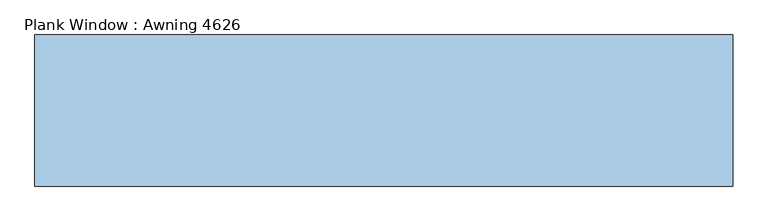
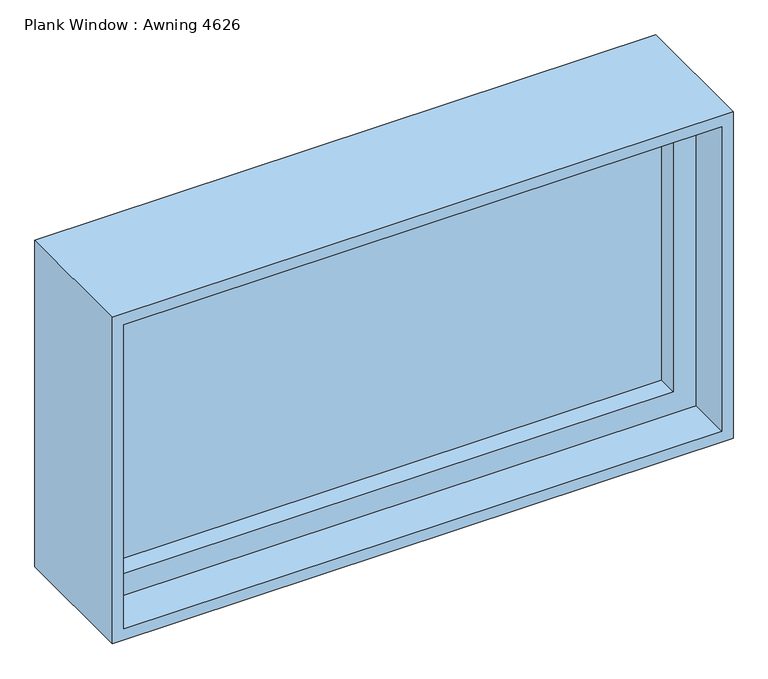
"""IFC4 building model written with IfcOpenShell, lengths in millimetres: window geometry, Plank Window : Awning 4626."""

from ifc_helpers import new_model, si_unit, frame, origin, place, context, project, spatial, polyline, outline, extrude, source, transform, mapped, element, save


def plank_window_awning_4626_d54cf950(model_context):
    return source(origin(), model_context, "Body", "SweptSolid", [
        extrude(outline(polyline([(609.6, -6.35), (-609.6, -6.35), (-609.6, 6.35), (609.6, 6.35), (609.6, -6.35)])), frame((0.0, 0.0, 990.6), z_axis=(0.0, 0.0, 1.0), x_axis=(1.0, 0.0, 0.0)), (0.0, 0.0, 1.0), 609.6),
        extrude(outline(polyline([(1651.0, -660.4), (939.8, -660.4), (939.8, 660.4), (1651.0, 660.4), (1651.0, -660.4)]), holes=[polyline([(1600.2, -609.6), (1600.2, 609.6), (990.6, 609.6), (990.6, -609.6), (1600.2, -609.6)])]), frame((0.0, -50.8, 0.0), z_axis=(0.0, 1.0, 0.0), x_axis=(0.0, 0.0, 1.0)), (0.0, 0.0, 1.0), 101.6),
        extrude(outline(polyline([(1676.4, -685.8), (914.4, -685.8), (914.4, 685.8), (1676.4, 685.8), (1676.4, -685.8)]), holes=[polyline([(1651.0, -660.4), (1651.0, 660.4), (939.8, 660.4), (939.8, -660.4), (1651.0, -660.4)])]), frame((0.0, -148.43125, 0.0), z_axis=(0.0, 1.0, 0.0), x_axis=(0.0, 0.0, 1.0)), (0.0, 0.0, 1.0), 296.8625),
    ])


if __name__ == "__main__":
    model = new_model("IFC4")
    model_context = context("Model", 3, world=origin())
    ifc_project = project(units=[si_unit("LENGTHUNIT", "METRE", prefix="MILLI")], contexts=[model_context])
    site = spatial("IfcSite", under=ifc_project)
    building = spatial("IfcBuilding", under=site)
    placement = place(None, origin())
    plank_window_awning_4626_shape = plank_window_awning_4626_d54cf950(model_context)
    element("IfcWindow", 1, ObjectType="Plank Window : Awning 4626", at=placement, inside=building, context=model_context, shape_type="MappedRepresentation", body=[
        mapped(plank_window_awning_4626_shape, transform((0.0, 0.0, 0.0), x_axis=(1.0, 0.0, 0.0), y_axis=(0.0, 1.0, 0.0), z_axis=(0.0, 0.0, 1.0))),
    ])
    save(model, "model.ifc")
